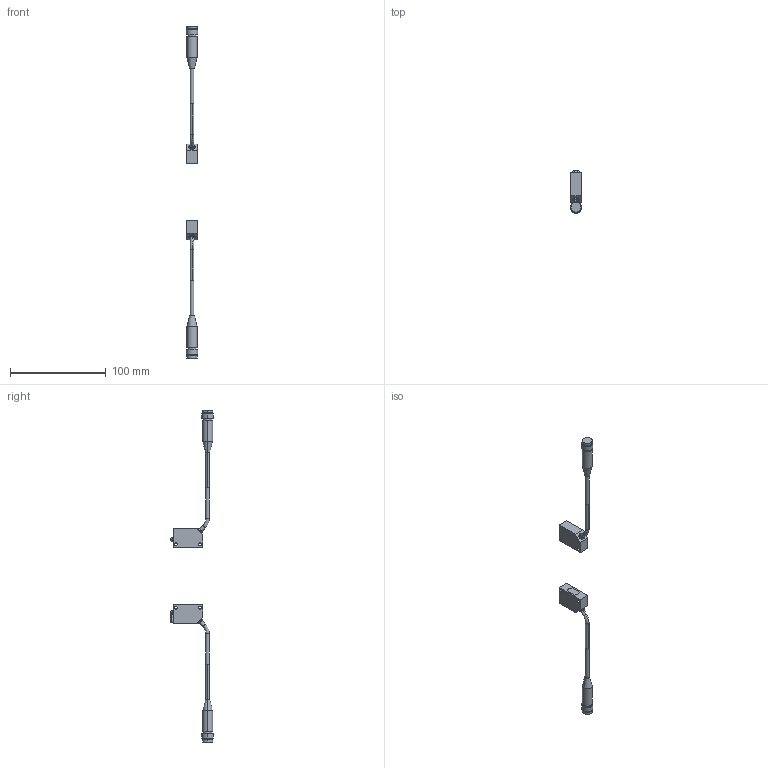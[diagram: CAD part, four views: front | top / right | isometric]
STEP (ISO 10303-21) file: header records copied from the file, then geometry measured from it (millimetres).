
FILE_DESCRIPTION (( 'STEP AP203' ), '1' );
FILE_NAME ('CX-411-J.STEP', '2005-09-05T03:55:28', ( '川島良英' ), ( ' ' ), 'SwSTEP 2.0', 'SolidWorks 2004251', '' );
FILE_SCHEMA (( 'CONFIG_CONTROL_DESIGN' ));
Length unit declared in the file: millimetre
Products named in the file (3): CX-411D-J_蹬怮椔; CX-411E-J_蹬怮椔; CX-411-J
Assembly tree (2 placements, depth 2):
  CX-411-J
    CX-411E-J_蹬怮椔
    CX-411D-J_蹬怮椔
Bounding box: 12 x 44.5 x 346 mm (x, y, z)
Volume: 21981.2 mm3; surface area: 10303.1 mm2
Topology: 4 solids, 4 shells, 148 faces, 333 edges, 206 vertices
Faces by surface type: cylinder 73, plane 55, sphere 8, cone 8, torus 4
Entity records: 4430 total; most frequent: DIRECTION 791, CARTESIAN_POINT 707, ORIENTED_EDGE 650, EDGE_CURVE 325, AXIS2_PLACEMENT_3D 316, VERTEX_POINT 206, EDGE_LOOP 177, CIRCLE 163
